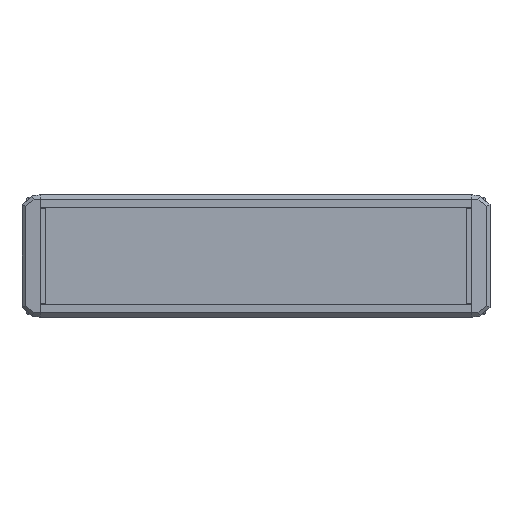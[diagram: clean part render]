
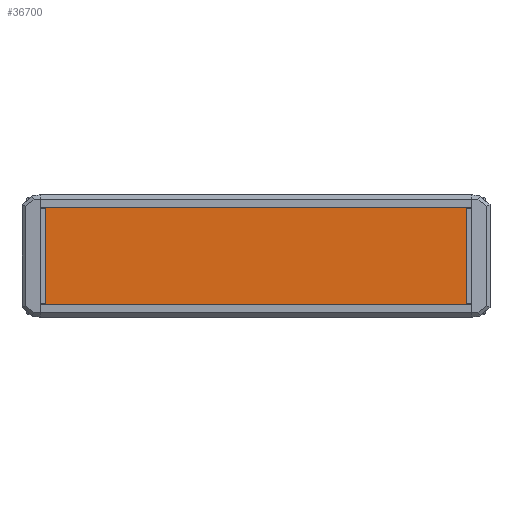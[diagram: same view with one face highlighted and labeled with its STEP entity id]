
A CAD part, front view. The second image highlights one B-rep face of the part: STEP entity #36700.
In plain terms, the highlighted planar face has unit normal (0, -1, 0) as drawn and (0, 1, 0) by its records, which use the part's own axes.
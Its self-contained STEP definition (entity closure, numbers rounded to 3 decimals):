
#36556=DIRECTION('',(-1.,0.,0.));
#36557=VECTOR('',#36556,34.6);
#36558=CARTESIAN_POINT('',(17.3,2.,-70.6));
#36559=LINE('',#36558,#36557);
#36577=DIRECTION('',(0.,0.,1.));
#36578=VECTOR('',#36577,141.2);
#36579=CARTESIAN_POINT('',(-17.3,2.,-70.6));
#36580=LINE('',#36579,#36578);
#36584=DIRECTION('',(0.,0.,1.));
#36585=VECTOR('',#36584,141.2);
#36586=CARTESIAN_POINT('',(17.3,2.,-70.6));
#36587=LINE('',#36586,#36585);
#36612=DIRECTION('',(-1.,0.,0.));
#36613=VECTOR('',#36612,34.6);
#36614=CARTESIAN_POINT('',(17.3,2.,70.6));
#36615=LINE('',#36614,#36613);
#36630=CARTESIAN_POINT('',(17.3,2.,-70.6));
#36631=VERTEX_POINT('',#36630);
#36632=CARTESIAN_POINT('',(-17.3,2.,-70.6));
#36633=VERTEX_POINT('',#36632);
#36638=CARTESIAN_POINT('',(17.3,2.,70.6));
#36639=VERTEX_POINT('',#36638);
#36640=CARTESIAN_POINT('',(-17.3,2.,70.6));
#36641=VERTEX_POINT('',#36640);
#36687=CARTESIAN_POINT('',(17.3,2.,-70.6));
#36688=DIRECTION('',(0.,1.,0.));
#36689=DIRECTION('',(-1.,0.,0.));
#36690=AXIS2_PLACEMENT_3D('',#36687,#36688,#36689);
#36691=PLANE('',#36690);
#36692=ORIENTED_EDGE('',*,*,#36651,.F.);
#36694=ORIENTED_EDGE('',*,*,#36693,.T.);
#36696=ORIENTED_EDGE('',*,*,#36695,.T.);
#36697=ORIENTED_EDGE('',*,*,#36679,.F.);
#36698=EDGE_LOOP('',(#36692,#36694,#36696,#36697));
#36699=FACE_OUTER_BOUND('',#36698,.F.);
#36651=EDGE_CURVE('',#36631,#36633,#36559,.T.);
#36679=EDGE_CURVE('',#36633,#36641,#36580,.T.);
#36693=EDGE_CURVE('',#36631,#36639,#36587,.T.);
#36695=EDGE_CURVE('',#36639,#36641,#36615,.T.);
#36700=ADVANCED_FACE('',(#36699),#36691,.T.);
